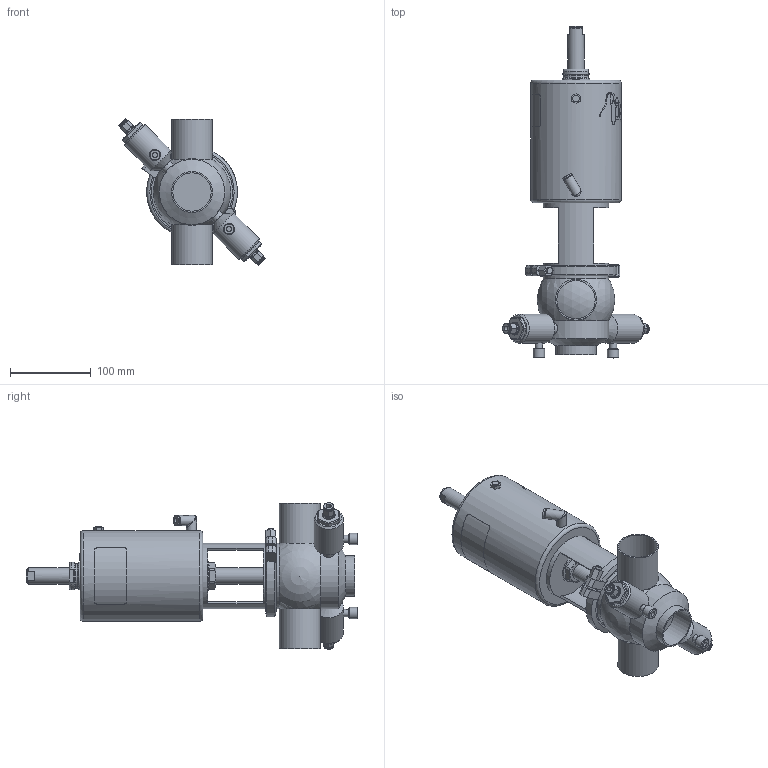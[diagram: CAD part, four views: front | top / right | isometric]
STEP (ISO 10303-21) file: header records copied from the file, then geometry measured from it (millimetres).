
FILE_DESCRIPTION (( 'STEP AP214' ), '1' );
FILE_NAME ('INNOVA D T W OD 2 T2 AS NC_10.246.16.0002.STEP', '2024-08-08T09:38:03', ( '' ), ( '' ), 'SwSTEP 2.0', 'SolidWorks 2023', '' );
FILE_SCHEMA (( 'AUTOMOTIVE_DESIGN' ));
Length unit declared in the file: millimetre
Products named in the file (5): 10.246.15.0002_OD 2"; INNOVA D T W OD 2 T2 AS NC_10.246.16.0002; 10.240.15.0014_T2 AS P0; 10.240.15.0001_DN 050; 10.240.15.0010_DN 050
Assembly tree (4 placements, depth 2):
  INNOVA D T W OD 2 T2 AS NC_10.246.16.0002
    10.246.15.0002_OD 2"
    10.240.15.0010_DN 050
    10.240.15.0014_T2 AS P0
    10.240.15.0001_DN 050
Bounding box: 181.87 x 411.25 x 181.87 mm (x, y, z)
Volume: 2358720.8 mm3; surface area: 233156 mm2
Topology: 4 solids, 4 shells, 424 faces, 1059 edges, 685 vertices
Faces by surface type: plane 225, cylinder 85, bspline 80, cone 27, torus 4, sphere 3
Full cylindrical faces by diameter (mm): 6 x4, 6.15 x1, 8 x3, 8.5 x1, 9 x2, 10 x2, 10.5 x1, 12 x4, 12.5 x3, 14 x4, 15 x2, 16 x1, 20 x2, 31 x1, 34.5 x2, 36 x2, 36.5 x1, 47.5 x3, 50.8 x3, 81 x3, 93 x2, 112.5 x1
Entity records: 23039 total; most frequent: CARTESIAN_POINT 12033, ORIENTED_EDGE 1928, DIRECTION 1611, EDGE_CURVE 964, VERTEX_POINT 667, AXIS2_PLACEMENT_3D 607, EDGE_LOOP 551, FACE_OUTER_BOUND 479
